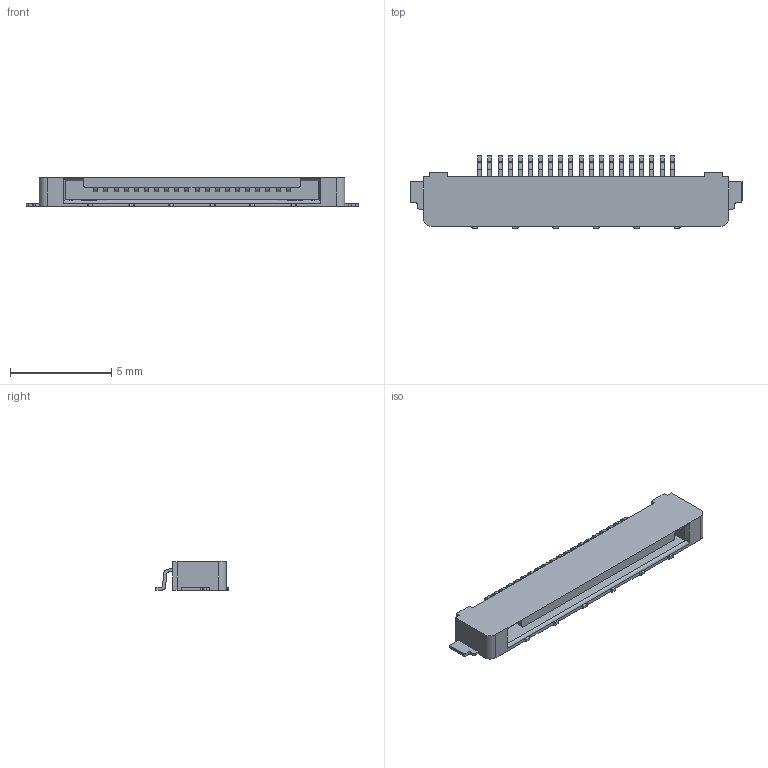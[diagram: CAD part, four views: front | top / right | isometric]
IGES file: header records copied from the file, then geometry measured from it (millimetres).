
Start section: Elysium IGES Interface
Global section: file name: C:\Users\1088\Desktop\SSLxx-xxL3\SSL00-20L3_IG.igs; native system: Creo Elements/Direct Modeling 19.0F  14-Feb-2017; preprocessor: Creo Element/Direct IGES_3D V2.2; author: Unknown; organization: Unknown; date: 20170804.141225; units: millimetre
Bounding box: 16.4 x 3.58 x 1.4 mm (x, y, z)
Volume: 40.3 mm3; surface area: 205.5 mm2
Topology: 1 solids, 1 shells, 507 faces, 1510 edges, 1006 vertices
Faces by surface type: bspline 507
